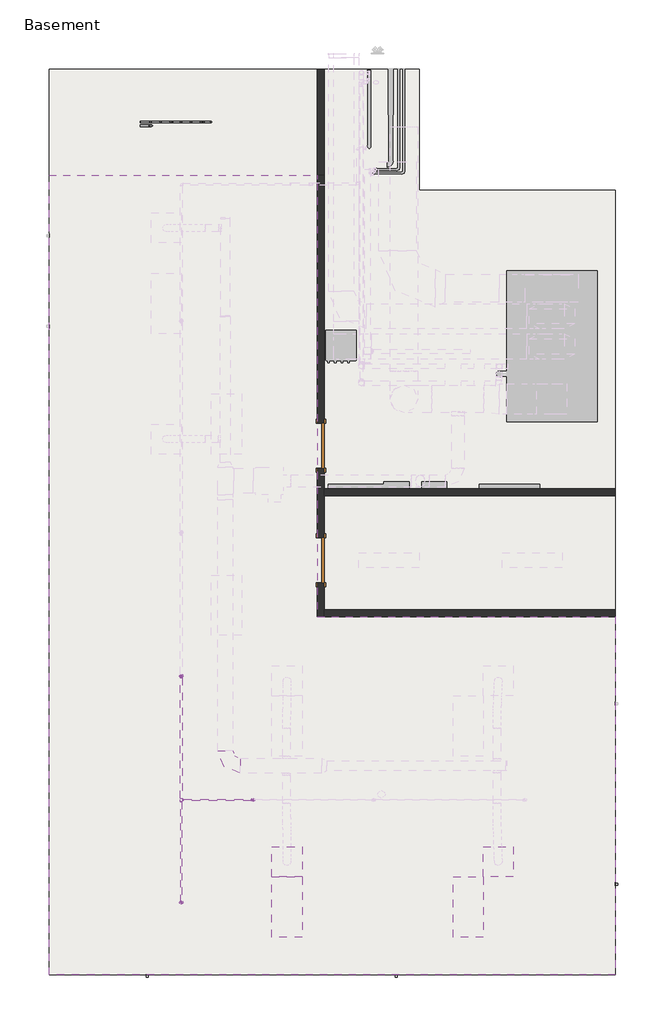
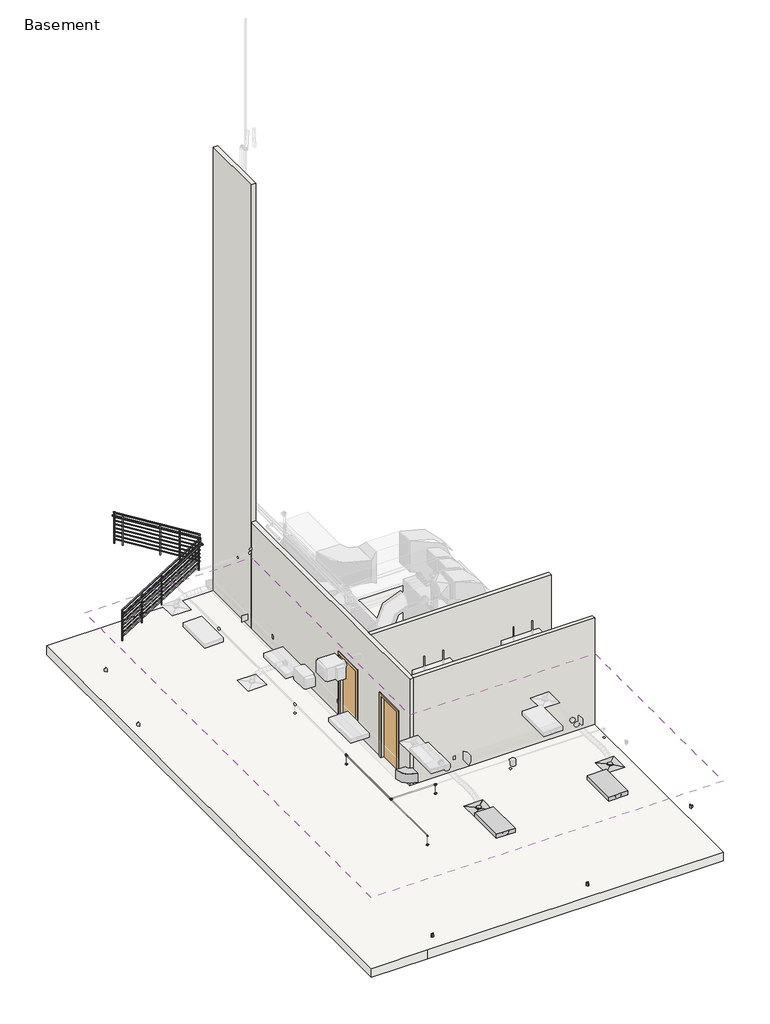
# One storey, part 1 of 6: 9 pipe fittings, 6 pipe segments, 4 walls, 3 fire suppression terminals, 3 proxies, 2 air terminals, 2 doors, 2 light fixtures, 4 other elements.
"""IFC4 building model written with IfcOpenShell, lengths in millimetres."""

from ifc_helpers import new_model, si_unit, point, frame, frame_2d, origin, place, context, project, spatial, polyline, circle_curve, trimmed, segment, composite_curve, outline, extrude, faceted_brep, transform, mapped, element, save
from ifc_brep_helpers import plane_surface, revolved_surface, advanced_brep
from components import rectangular_diffuser_round_connection_24x24_6_neck_a21b6d18, receptacle_gfci_367a9a66, door_c6edcd30, rectangular_duct_radius_elbow_1_w_c7ce8194, fire_suppression_terminal_51680e4f, light_fixture_84ca9390, pipe_elbow_standard_aad62f2d, pipe_tee_standard_feafe2f1, pipe_tee_standard_60c871d1, pipe_transition_eccentric_standard_3095b3c8, pipe_transition_eccentric_standard_8de4c794, pipe_transition_eccentric_standard_b9d171b6, pipe_transition_eccentric_standard_dbf49378, guardrail_pipe_d6e5a110

model = new_model("IFC4")

# Units and contexts
model_context = context("Model", 3, world=origin())
ifc_project = project(units=[si_unit("LENGTHUNIT", "METRE", prefix="MILLI")], contexts=[model_context])

# Site, building, storey
site = spatial("IfcSite", under=ifc_project)
building = spatial("IfcBuilding", under=site)
storey = spatial("IfcBuildingStorey", under=building, Name="Basement", Elevation=-3657.6)

# Air terminals
placement = place(None, origin())
rectangular_diffuser_round_connection_24x24_6_neck_shape = rectangular_diffuser_round_connection_24x24_6_neck_a21b6d18(model_context)
element("IfcAirTerminal", 1, ObjectType="Rectangular Diffuser - Round Connection : 24x24 - 6 Neck", at=placement, inside=storey, context=model_context, shape_type="MappedRepresentation", body=[
    mapped(rectangular_diffuser_round_connection_24x24_6_neck_shape, transform((333.5560388, -4404.890357, -1219.2), x_axis=(1.0, 0.0, 0.0), y_axis=(0.0, 1.0, 0.0), z_axis=(0.0, 0.0, 1.0))),
])
element("IfcAirTerminal", 2, ObjectType="Rectangular Diffuser - Round Connection : 24x24 - 6 Neck", at=placement, inside=storey, context=model_context, shape_type="MappedRepresentation", body=[
    mapped(rectangular_diffuser_round_connection_24x24_6_neck_shape, transform((4600.7560388, -4404.890357, -1219.2), x_axis=(1.0, 0.0, 0.0), y_axis=(0.0, 1.0, 0.0), z_axis=(0.0, 0.0, 1.0))),
])

# Proxies
receptacle_gfci_shape = receptacle_gfci_367a9a66(model_context)
element("IfcBuildingElementProxy", 3, Name="Receptacle : Standard", ObjectType="Receptacle : Standard", at=placement, inside=storey, context=model_context, shape_type="MappedRepresentation", body=[
    mapped(receptacle_gfci_shape, transform((6962.9560388, -4855.740357, -3200.4), x_axis=(0.0, -1.0, 0.0), y_axis=(0.0, 0.0, 1.0), z_axis=(-1.0, 0.0, 0.0))),
])
element("IfcBuildingElementProxy", 4, Name="Receptacle : Standard", ObjectType="Receptacle : Standard", at=placement, inside=storey, context=model_context, shape_type="MappedRepresentation", body=[
    mapped(receptacle_gfci_shape, transform((2543.3560388, -6684.540357, -3200.4), x_axis=(-1.0, 0.0, 0.0), y_axis=(0.0, 0.0, 1.0), z_axis=(0.0, 1.0, 0.0))),
])
element("IfcBuildingElementProxy", 5, Name="Receptacle : Standard", ObjectType="Receptacle : Standard", at=placement, inside=storey, context=model_context, shape_type="MappedRepresentation", body=[
    mapped(receptacle_gfci_shape, transform((-2485.8439612, -6684.540357, -3200.4), x_axis=(-1.0, 0.0, 0.0), y_axis=(0.0, 0.0, 1.0), z_axis=(0.0, 1.0, 0.0))),
])

# Covering
element("IfcCovering", 6, ObjectType="2' x 4' ACT System", at=placement, inside=storey, context=model_context, shape_type="AdvancedBrep", body=[
    advanced_brep(
    [(6962.9560388, -6684.540357, -1162.05), (6962.9560388, 548.109643, -1162.05), (949.5060388, 548.109643, -1162.05), (949.5060388, 9304.759643, -1162.05), (949.5060388, 9457.159643, -1162.05), (-4467.0439612, 9457.159643, -1162.05), (-4467.0439612, -6684.540357, -1162.05), (-2638.2439612, -6684.540357, -1162.05), (-3349.4439612, -3642.890357, -1162.05), (-3349.4439612, 2884.909643, -1162.05), (-2181.0439612, 2884.909643, -1162.05), (-2181.0439612, -3642.890357, -1162.05), (2314.7560388, -3039.640357, -1162.05), (2162.3560388, -3039.640357, -1162.05), (-2339.9042635, 7475.959643, -1162.05), (-1869.7836589, 7475.959643, -1162.05), (-1869.7836589, 6269.459643, -1162.05), (-2339.9042635, 6269.459643, -1162.05), (-1120.7042635, 5037.559643, -1162.05), (-650.5836589, 5037.559643, -1162.05), (-650.5836589, 3831.059643, -1162.05), (-1120.7042635, 3831.059643, -1162.05), (-650.5836589, 173.459643, -1162.05), (-1120.7042635, 173.459643, -1162.05), (-1120.7042635, 1379.959643, -1162.05), (-650.5836589, 1379.959643, -1162.05), (568.6163411, -2264.940357, -1162.05), (98.4957365, -2264.940357, -1162.05), (98.4957365, -1058.440357, -1162.05), (568.6163411, -1058.440357, -1162.05), (4226.2163411, -2264.940357, -1162.05), (3756.0957365, -2264.940357, -1162.05), (3756.0957365, -1058.440357, -1162.05), (4226.2163411, -1058.440357, -1162.05), (4226.2163411, -5922.540357, -1162.05), (3756.0957365, -5922.540357, -1162.05), (3756.0957365, -4716.040357, -1162.05), (4226.2163411, -4716.040357, -1162.05), (568.6163411, -5922.540357, -1162.05), (98.4957365, -5922.540357, -1162.05), (98.4957365, -4716.040357, -1162.05), (568.6163411, -4716.040357, -1162.05), (6962.9560388, 548.109643, -1219.2), (6962.9560388, -6684.540357, -1219.2), (-2638.2439612, -6684.540357, -1219.2), (-4467.0439612, -6684.540357, -1219.2), (-4467.0439612, 9457.159643, -1219.2), (949.5060388, 9457.159643, -1219.2), (949.5060388, 9304.759643, -1219.2), (949.5060388, 548.109643, -1219.2), (-3349.4439612, 2884.909643, -1219.2), (-3349.4439612, -3642.890357, -1219.2), (-2181.0439612, -3642.890357, -1219.2), (-2181.0439612, 2884.909643, -1219.2), (2162.3560388, -3039.640357, -1219.2), (2314.7560388, -3039.640357, -1219.2), (-1806.3939612, 7475.959643, -1219.2), (-2403.2939612, 7475.959643, -1219.2), (-2403.2939612, 6269.459643, -1219.2), (-1806.3939612, 6269.459643, -1219.2), (-587.1939612, 5037.559643, -1219.2), (-1184.0939612, 5037.559643, -1219.2), (-1184.0939612, 3831.059643, -1219.2), (-587.1939612, 3831.059643, -1219.2), (-1184.0939612, 173.459643, -1219.2), (-587.1939612, 173.459643, -1219.2), (-587.1939612, 1379.959643, -1219.2), (-1184.0939612, 1379.959643, -1219.2), (35.1060388, -2264.940357, -1219.2), (632.0060388, -2264.940357, -1219.2), (632.0060388, -1058.440357, -1219.2), (35.1060388, -1058.440357, -1219.2), (3692.7060388, -2264.940357, -1219.2), (4289.6060388, -2264.940357, -1219.2), (4289.6060388, -1058.440357, -1219.2), (3692.7060388, -1058.440357, -1219.2), (3692.7060388, -5922.540357, -1219.2), (4289.6060388, -5922.540357, -1219.2), (4289.6060388, -4716.040357, -1219.2), (3692.7060388, -4716.040357, -1219.2), (35.1060388, -5922.540357, -1219.2), (632.0060388, -5922.540357, -1219.2), (632.0060388, -4716.040357, -1219.2), (35.1060388, -4716.040357, -1219.2)],
    [
        (0, 1),
        (1, 2),
        (2, 3),
        (3, 4),
        (4, 5),
        (5, 6),
        (6, 7),
        (7, 0),
        (8, 9),
        (9, 10),
        (10, 11),
        (11, 8),
        (12, 13, circle_curve(frame((2238.5560388, -3039.640357, -1162.05), z_axis=(0.0, 0.0, -1.0), x_axis=(1.0, 0.0, 0.0)), 76.2)),
        (13, 12, circle_curve(frame((2238.5560388, -3039.640357, -1162.05), z_axis=(0.0, 0.0, -1.0), x_axis=(1.0, 0.0, 0.0)), 76.2)),
        (14, 15),
        (15, 16),
        (16, 17),
        (17, 14),
        (18, 19),
        (19, 20),
        (20, 21),
        (21, 18),
        (22, 23),
        (23, 24),
        (24, 25),
        (25, 22),
        (26, 27),
        (27, 28),
        (28, 29),
        (29, 26),
        (30, 31),
        (31, 32),
        (32, 33),
        (33, 30),
        (34, 35),
        (35, 36),
        (36, 37),
        (37, 34),
        (38, 39),
        (39, 40),
        (40, 41),
        (41, 38),
        (42, 43),
        (43, 44),
        (44, 45),
        (45, 46),
        (46, 47),
        (47, 48),
        (48, 49),
        (49, 42),
        (50, 51),
        (51, 52),
        (52, 53),
        (53, 50),
        (54, 55, circle_curve(frame((2238.5560388, -3039.640357, -1219.2), z_axis=(0.0, 0.0, 1.0), x_axis=(1.0, 0.0, 0.0)), 76.2)),
        (55, 54, circle_curve(frame((2238.5560388, -3039.640357, -1219.2), z_axis=(0.0, 0.0, 1.0), x_axis=(1.0, 0.0, 0.0)), 76.2)),
        (56, 57),
        (57, 58),
        (58, 59),
        (59, 56),
        (60, 61),
        (61, 62),
        (62, 63),
        (63, 60),
        (64, 65),
        (65, 66),
        (66, 67),
        (67, 64),
        (68, 69),
        (69, 70),
        (70, 71),
        (71, 68),
        (72, 73),
        (73, 74),
        (74, 75),
        (75, 72),
        (76, 77),
        (77, 78),
        (78, 79),
        (79, 76),
        (80, 81),
        (81, 82),
        (82, 83),
        (83, 80),
        (0, 43),
        (42, 1),
        (49, 2),
        (48, 3),
        (47, 4),
        (46, 5),
        (45, 6),
        (44, 7),
        (8, 51),
        (50, 9),
        (53, 10),
        (52, 11),
        (54, 13),
        (12, 55),
        (56, 15, circle_curve(frame((-2104.8439612, 7475.959643, -1486.5047619), z_axis=(0.0, -1.0, 0.0), x_axis=(1.0, 0.0, 0.0)), 400.6547619)),
        (14, 57, circle_curve(frame((-2104.8439612, 7475.959643, -1486.5047619), z_axis=(0.0, -1.0, 0.0), x_axis=(1.0, 0.0, 0.0)), 400.6547619)),
        (58, 17, circle_curve(frame((-2104.8439612, 6269.459643, -1486.5047619), z_axis=(0.0, 1.0, 0.0), x_axis=(1.0, 0.0, 0.0)), 400.6547619)),
        (16, 59, circle_curve(frame((-2104.8439612, 6269.459643, -1486.5047619), z_axis=(0.0, 1.0, 0.0), x_axis=(1.0, 0.0, 0.0)), 400.6547619)),
        (60, 19, circle_curve(frame((-885.6439612, 5037.559643, -1486.5047619), z_axis=(0.0, -1.0, 0.0), x_axis=(1.0, 0.0, 0.0)), 400.6547619)),
        (18, 61, circle_curve(frame((-885.6439612, 5037.559643, -1486.5047619), z_axis=(0.0, -1.0, 0.0), x_axis=(1.0, 0.0, 0.0)), 400.6547619)),
        (62, 21, circle_curve(frame((-885.6439612, 3831.059643, -1486.5047619), z_axis=(0.0, 1.0, 0.0), x_axis=(1.0, 0.0, 0.0)), 400.6547619)),
        (20, 63, circle_curve(frame((-885.6439612, 3831.059643, -1486.5047619), z_axis=(0.0, 1.0, 0.0), x_axis=(1.0, 0.0, 0.0)), 400.6547619)),
        (64, 23, circle_curve(frame((-885.6439612, 173.459643, -1486.5047619), z_axis=(0.0, 1.0, 0.0), x_axis=(-1.0, 0.0, 0.0)), 400.6547619)),
        (22, 65, circle_curve(frame((-885.6439612, 173.459643, -1486.5047619), z_axis=(0.0, 1.0, 0.0), x_axis=(-1.0, 0.0, 0.0)), 400.6547619)),
        (66, 25, circle_curve(frame((-885.6439612, 1379.959643, -1486.5047619), z_axis=(0.0, -1.0, 0.0), x_axis=(-1.0, 0.0, 0.0)), 400.6547619)),
        (24, 67, circle_curve(frame((-885.6439612, 1379.959643, -1486.5047619), z_axis=(0.0, -1.0, 0.0), x_axis=(-1.0, 0.0, 0.0)), 400.6547619)),
        (68, 27, circle_curve(frame((333.5560388, -2264.940357, -1486.5047619), z_axis=(0.0, 1.0, 0.0), x_axis=(-1.0, 0.0, 0.0)), 400.6547619)),
        (26, 69, circle_curve(frame((333.5560388, -2264.940357, -1486.5047619), z_axis=(0.0, 1.0, 0.0), x_axis=(-1.0, 0.0, 0.0)), 400.6547619)),
        (70, 29, circle_curve(frame((333.5560388, -1058.440357, -1486.5047619), z_axis=(0.0, -1.0, 0.0), x_axis=(-1.0, 0.0, 0.0)), 400.6547619)),
        (28, 71, circle_curve(frame((333.5560388, -1058.440357, -1486.5047619), z_axis=(0.0, -1.0, 0.0), x_axis=(-1.0, 0.0, 0.0)), 400.6547619)),
        (72, 31, circle_curve(frame((3991.1560388, -2264.940357, -1486.5047619), z_axis=(0.0, 1.0, 0.0), x_axis=(-1.0, 0.0, 0.0)), 400.6547619)),
        (30, 73, circle_curve(frame((3991.1560388, -2264.940357, -1486.5047619), z_axis=(0.0, 1.0, 0.0), x_axis=(-1.0, 0.0, 0.0)), 400.6547619)),
        (74, 33, circle_curve(frame((3991.1560388, -1058.440357, -1486.5047619), z_axis=(0.0, -1.0, 0.0), x_axis=(-1.0, 0.0, 0.0)), 400.6547619)),
        (32, 75, circle_curve(frame((3991.1560388, -1058.440357, -1486.5047619), z_axis=(0.0, -1.0, 0.0), x_axis=(-1.0, 0.0, 0.0)), 400.6547619)),
        (76, 35, circle_curve(frame((3991.1560388, -5922.540357, -1486.5047619), z_axis=(0.0, 1.0, 0.0), x_axis=(-1.0, 0.0, 0.0)), 400.6547619)),
        (34, 77, circle_curve(frame((3991.1560388, -5922.540357, -1486.5047619), z_axis=(0.0, 1.0, 0.0), x_axis=(-1.0, 0.0, 0.0)), 400.6547619)),
        (78, 37, circle_curve(frame((3991.1560388, -4716.040357, -1486.5047619), z_axis=(0.0, -1.0, 0.0), x_axis=(-1.0, 0.0, 0.0)), 400.6547619)),
        (36, 79, circle_curve(frame((3991.1560388, -4716.040357, -1486.5047619), z_axis=(0.0, -1.0, 0.0), x_axis=(-1.0, 0.0, 0.0)), 400.6547619)),
        (80, 39, circle_curve(frame((333.5560388, -5922.540357, -1486.5047619), z_axis=(0.0, 1.0, 0.0), x_axis=(-1.0, 0.0, 0.0)), 400.6547619)),
        (38, 81, circle_curve(frame((333.5560388, -5922.540357, -1486.5047619), z_axis=(0.0, 1.0, 0.0), x_axis=(-1.0, 0.0, 0.0)), 400.6547619)),
        (82, 41, circle_curve(frame((333.5560388, -4716.040357, -1486.5047619), z_axis=(0.0, -1.0, 0.0), x_axis=(-1.0, 0.0, 0.0)), 400.6547619)),
        (40, 83, circle_curve(frame((333.5560388, -4716.040357, -1486.5047619), z_axis=(0.0, -1.0, 0.0), x_axis=(-1.0, 0.0, 0.0)), 400.6547619)),
    ],
    [
        plane_surface(frame((6962.9560388, 548.109643, -1162.05), z_axis=(0.0, 0.0, 1.0), x_axis=(0.0, 1.0, 0.0))),
        plane_surface(frame((6962.9560388, 548.109643, -1219.2), z_axis=(0.0, 0.0, -1.0), x_axis=(0.0, -1.0, 0.0))),
        plane_surface(frame((6962.9560388, -6684.540357, -1162.05), z_axis=(1.0, 0.0, 0.0), x_axis=(0.0, 0.0, -1.0))),
        plane_surface(frame((6962.9560388, 548.109643, -1162.05), z_axis=(0.0, 1.0, 0.0), x_axis=(0.0, 0.0, -1.0))),
        plane_surface(frame((949.5060388, 548.109643, -1162.05), z_axis=(1.0, 0.0, 0.0), x_axis=(0.0, 0.0, -1.0))),
        plane_surface(frame((949.5060388, 9304.759643, -1162.05), z_axis=(1.0, 0.0, 0.0), x_axis=(0.0, 0.0, -1.0))),
        plane_surface(frame((949.5060388, 9457.159643, -1162.05), z_axis=(0.0, 1.0, 0.0), x_axis=(0.0, 0.0, -1.0))),
        plane_surface(frame((-4467.0439612, 9457.159643, -1162.05), z_axis=(-1.0, 0.0, 0.0), x_axis=(0.0, 0.0, -1.0))),
        plane_surface(frame((-4467.0439612, -6684.540357, -1162.05), z_axis=(0.0, -1.0, 0.0), x_axis=(0.0, 0.0, -1.0))),
        plane_surface(frame((-2638.2439612, -6684.540357, -1162.05), z_axis=(0.0, -1.0, 0.0), x_axis=(0.0, 0.0, -1.0))),
        plane_surface(frame((-3349.4439612, -3642.890357, -1162.05), z_axis=(1.0, 0.0, 0.0), x_axis=(0.0, 0.0, -1.0))),
        plane_surface(frame((-3349.4439612, 2884.909643, -1162.05), z_axis=(0.0, -1.0, 0.0), x_axis=(0.0, 0.0, -1.0))),
        plane_surface(frame((-2181.0439612, 2884.909643, -1162.05), z_axis=(-1.0, 0.0, 0.0), x_axis=(0.0, 0.0, -1.0))),
        plane_surface(frame((-2181.0439612, -3642.890357, -1162.05), z_axis=(0.0, 1.0, 0.0), x_axis=(0.0, 0.0, -1.0))),
        revolved_surface(polyline([(2314.7560387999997, -3039.640357, -1162.05), (2314.7560387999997, -3039.640357, -1219.2)]), (2238.5560388, -3039.640357, -1219.2), (0.0, 0.0, 1.0)),
        plane_surface(frame((-2403.2939612, 7475.959643, -1219.2), z_axis=(0.0, -1.0, 0.0), x_axis=(-1.0, 0.0, 0.0))),
        plane_surface(frame((-2403.2939612, 6269.459643, -1219.2), z_axis=(0.0, 1.0, 0.0), x_axis=(1.0, 0.0, 0.0))),
        revolved_surface(polyline([(-1704.1891993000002, 7475.959643, -1486.5047619), (-1704.1891993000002, 6269.459643, -1486.5047619)]), (-2104.8439612, 6269.459643, -1486.5047619), (0.0, 1.0, 0.0)),
        plane_surface(frame((-1184.0939612, 5037.559643, -1219.2), z_axis=(0.0, -1.0, 0.0), x_axis=(-1.0, 0.0, 0.0))),
        plane_surface(frame((-1184.0939612, 3831.059643, -1219.2), z_axis=(0.0, 1.0, 0.0), x_axis=(1.0, 0.0, 0.0))),
        revolved_surface(polyline([(-484.98919930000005, 5037.559643, -1486.5047619), (-484.98919930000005, 3831.059643, -1486.5047619)]), (-885.6439612, 3831.059643, -1486.5047619), (0.0, 1.0, 0.0)),
        plane_surface(frame((-587.1939612, 173.459643, -1219.2), z_axis=(0.0, 1.0, 0.0), x_axis=(1.0, 0.0, 0.0))),
        plane_surface(frame((-587.1939612, 1379.959643, -1219.2), z_axis=(0.0, -1.0, 0.0), x_axis=(-1.0, 0.0, 0.0))),
        revolved_surface(polyline([(-1286.2987231, 173.45964299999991, -1486.5047619), (-1286.2987231, 1379.959643, -1486.5047619)]), (-885.6439612, 1379.959643, -1486.5047619), (0.0, -1.0, 0.0)),
        plane_surface(frame((632.0060388, -2264.940357, -1219.2), z_axis=(0.0, 1.0, 0.0), x_axis=(1.0, 0.0, 0.0))),
        plane_surface(frame((632.0060388, -1058.440357, -1219.2), z_axis=(0.0, -1.0, 0.0), x_axis=(-1.0, 0.0, 0.0))),
        revolved_surface(polyline([(-67.09872309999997, -2264.940357, -1486.5047619), (-67.09872309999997, -1058.440357, -1486.5047619)]), (333.5560388, -1058.440357, -1486.5047619), (0.0, -1.0, 0.0)),
        plane_surface(frame((4289.6060388, -2264.940357, -1219.2), z_axis=(0.0, 1.0, 0.0), x_axis=(1.0, 0.0, 0.0))),
        plane_surface(frame((4289.6060388, -1058.440357, -1219.2), z_axis=(0.0, -1.0, 0.0), x_axis=(-1.0, 0.0, 0.0))),
        revolved_surface(polyline([(3590.5012769, -2264.940357, -1486.5047619), (3590.5012769, -1058.440357, -1486.5047619)]), (3991.1560388, -1058.440357, -1486.5047619), (0.0, -1.0, 0.0)),
        plane_surface(frame((4289.6060388, -5922.540357, -1219.2), z_axis=(0.0, 1.0, 0.0), x_axis=(1.0, 0.0, 0.0))),
        plane_surface(frame((4289.6060388, -4716.040357, -1219.2), z_axis=(0.0, -1.0, 0.0), x_axis=(-1.0, 0.0, 0.0))),
        revolved_surface(polyline([(3590.5012769, -5922.540357, -1486.5047619), (3590.5012769, -4716.040357, -1486.5047619)]), (3991.1560388, -4716.040357, -1486.5047619), (0.0, -1.0, 0.0)),
        plane_surface(frame((632.0060388, -5922.540357, -1219.2), z_axis=(0.0, 1.0, 0.0), x_axis=(1.0, 0.0, 0.0))),
        plane_surface(frame((632.0060388, -4716.040357, -1219.2), z_axis=(0.0, -1.0, 0.0), x_axis=(-1.0, 0.0, 0.0))),
        revolved_surface(polyline([(-67.09872309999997, -5922.540357, -1486.5047619), (-67.09872309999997, -4716.040357, -1486.5047619)]), (333.5560388, -4716.040357, -1486.5047619), (0.0, -1.0, 0.0)),
    ],
    [
        (0, [[1, 2, 3, 4, 5, 6, 7, 8], [9, 10, 11, 12], [13, 14], [15, 16, 17, 18], [19, 20, 21, 22], [23, 24, 25, 26], [27, 28, 29, 30], [31, 32, 33, 34], [35, 36, 37, 38], [39, 40, 41, 42]]),
        (1, [[43, 44, 45, 46, 47, 48, 49, 50], [51, 52, 53, 54], [55, 56], [57, 58, 59, 60], [61, 62, 63, 64], [65, 66, 67, 68], [69, 70, 71, 72], [73, 74, 75, 76], [77, 78, 79, 80], [81, 82, 83, 84]]),
        (2, [[-1, 85, -43, 86]]),
        (3, [[-2, -86, -50, 87]]),
        (4, [[-3, -87, -49, 88]]),
        (5, [[-4, -88, -48, 89]]),
        (6, [[-5, -89, -47, 90]]),
        (7, [[-6, -90, -46, 91]]),
        (8, [[-7, -91, -45, 92]]),
        (9, [[-8, -92, -44, -85]]),
        (10, [[-9, 93, -51, 94]]),
        (11, [[-10, -94, -54, 95]]),
        (12, [[-11, -95, -53, 96]]),
        (13, [[-12, -96, -52, -93]]),
        (14, [[-55, 97, -13, 98]]),
        (14, [[-56, -98, -14, -97]]),
        (15, [[99, -15, 100, -57]]),
        (16, [[101, -17, 102, -59]]),
        (17, [[-99, -60, -102, -16]]),
        (17, [[-100, -18, -101, -58]]),
        (18, [[103, -19, 104, -61]]),
        (19, [[105, -21, 106, -63]]),
        (20, [[-103, -64, -106, -20]]),
        (20, [[-104, -22, -105, -62]]),
        (21, [[107, -23, 108, -65]]),
        (22, [[109, -25, 110, -67]]),
        (23, [[-107, -68, -110, -24]]),
        (23, [[-108, -26, -109, -66]]),
        (24, [[111, -27, 112, -69]]),
        (25, [[113, -29, 114, -71]]),
        (26, [[-111, -72, -114, -28]]),
        (26, [[-112, -30, -113, -70]]),
        (27, [[115, -31, 116, -73]]),
        (28, [[117, -33, 118, -75]]),
        (29, [[-115, -76, -118, -32]]),
        (29, [[-116, -34, -117, -74]]),
        (30, [[119, -35, 120, -77]]),
        (31, [[121, -37, 122, -79]]),
        (32, [[-119, -80, -122, -36]]),
        (32, [[-120, -38, -121, -78]]),
        (33, [[123, -39, 124, -81]]),
        (34, [[125, -41, 126, -83]]),
        (35, [[-123, -84, -126, -40]]),
        (35, [[-124, -42, -125, -82]]),
    ],
),
])

# Doors
door_shape = door_c6edcd30(model_context)
element("IfcDoor", 7, ObjectType="Single-Flush : 36\" x 84\"", at=placement, inside=storey, context=model_context, shape_type="MappedRepresentation", body=[
    mapped(door_shape, transform((1019.3560388, 3996.159643, -3657.6), x_axis=(0.0, -1.0, 0.0), y_axis=(1.0, 0.0, 0.0), z_axis=(0.0, 0.0, 1.0))),
])
element("IfcDoor", 8, ObjectType="Single-Flush : 36\" x 84\"", at=placement, inside=storey, context=model_context, shape_type="MappedRepresentation", body=[
    mapped(door_shape, transform((1019.3560388, 1684.759643, -3657.6), x_axis=(0.0, -1.0, 0.0), y_axis=(1.0, 0.0, 0.0), z_axis=(0.0, 0.0, 1.0))),
])

# Duct fitting
rectangular_duct_radius_elbow_1_w_shape = rectangular_duct_radius_elbow_1_w_c7ce8194(model_context)
element("IfcDuctFitting", 9, ObjectType="Rectangular Duct Radius Elbow : 1 W", at=placement, inside=storey, context=model_context, shape_type="MappedRepresentation", body=[
    mapped(rectangular_duct_radius_elbow_1_w_shape, transform((-915.1844462, -2464.4502377, -914.4), x_axis=(-1.0, 0.0, 0.0), y_axis=(0.0, 1.0, 0.0), z_axis=(0.0, 0.0, -1.0))),
])

# Fire suppression terminals
fire_suppression_terminal_shape = fire_suppression_terminal_51680e4f(model_context)
element("IfcFireSuppressionTerminal", 10, ObjectType="Sprinkler - Pendent - Semi-Recessed - Hosted : 1/2\" Pendent", at=placement, inside=storey, context=model_context, shape_type="MappedRepresentation", body=[
    mapped(fire_suppression_terminal_shape, transform((-352.2439612, -3153.940357, -1219.2), x_axis=(1.0, 0.0, 0.0), y_axis=(0.0, -1.0, 0.0), z_axis=(0.0, 0.0, -1.0))),
])
element("IfcFireSuppressionTerminal", 11, ObjectType="Sprinkler - Pendent - Semi-Recessed - Hosted : 1/2\" Pendent", at=placement, inside=storey, context=model_context, shape_type="MappedRepresentation", body=[
    mapped(fire_suppression_terminal_shape, transform((-1800.0439612, -5226.7977664, -1219.2), x_axis=(1.0, 0.0, 0.0), y_axis=(0.0, -1.0, 0.0), z_axis=(0.0, 0.0, -1.0))),
])
element("IfcFireSuppressionTerminal", 12, ObjectType="Sprinkler - Pendent - Semi-Recessed - Hosted : 1/2\" Pendent", at=placement, inside=storey, context=model_context, shape_type="MappedRepresentation", body=[
    mapped(fire_suppression_terminal_shape, transform((-1800.0439612, -654.7977664, -1219.2), x_axis=(1.0, 0.0, 0.0), y_axis=(0.0, -1.0, 0.0), z_axis=(0.0, 0.0, -1.0))),
])

# Light fixtures
light_fixture_shape = light_fixture_84ca9390(model_context)
element("IfcLightFixture", 13, ObjectType="Recessed Direct-Indirect Light - Symmetrical : 48\"(3 Lamp) - 277V", at=placement, inside=storey, context=model_context, shape_type="MappedRepresentation", body=[
    mapped(light_fixture_shape, transform((3991.1560388, -5319.290357, -1219.2), x_axis=(-1.0, 0.0, 0.0), y_axis=(0.0, 1.0, 0.0), z_axis=(0.0, 0.0, -1.0))),
])
element("IfcLightFixture", 14, ObjectType="Recessed Direct-Indirect Light - Symmetrical : 48\"(3 Lamp) - 277V", at=placement, inside=storey, context=model_context, shape_type="MappedRepresentation", body=[
    mapped(light_fixture_shape, transform((333.5560388, -5319.290357, -1219.2), x_axis=(-1.0, 0.0, 0.0), y_axis=(0.0, 1.0, 0.0), z_axis=(0.0, 0.0, -1.0))),
])

# Pipe fittings
pipe_elbow_standard_shape = pipe_elbow_standard_aad62f2d(model_context)
element("IfcPipeFitting", 15, ObjectType="Pipe Elbow1 : Standard 2", at=placement, inside=storey, context=model_context, shape_type="MappedRepresentation", body=[
    mapped(pipe_elbow_standard_shape, transform((-1800.0439612, -5226.7977664, -914.4), x_axis=(0.0, 0.0, 1.0), y_axis=(0.0, 1.0, 0.0), z_axis=(-1.0, 0.0, 0.0))),
])
pipe_tee_standard_shape = pipe_tee_standard_feafe2f1(model_context)
element("IfcPipeFitting", 16, ObjectType="Pipe Tee : Standard", at=placement, inside=storey, context=model_context, shape_type="MappedRepresentation", body=[
    mapped(pipe_tee_standard_shape, transform((-352.2439612, -3153.940357, -914.4), x_axis=(1.0, 0.0, 0.0), y_axis=(0.0, 0.0, 1.0), z_axis=(0.0, -1.0, 0.0))),
])
pipe_tee_standard_2_shape = pipe_tee_standard_60c871d1(model_context)
element("IfcPipeFitting", 17, ObjectType="Pipe Tee : Standard", at=placement, inside=storey, context=model_context, shape_type="MappedRepresentation", body=[
    mapped(pipe_tee_standard_2_shape, transform((-1800.0439612, -3153.940357, -914.4), x_axis=(0.0, -1.0, 0.0), y_axis=(-1.0, 0.0, 0.0), z_axis=(0.0, 0.0, -1.0))),
])
element("IfcPipeFitting", 18, ObjectType="Pipe Tee : Standard", at=placement, inside=storey, context=model_context, shape_type="MappedRepresentation", body=[
    mapped(pipe_tee_standard_2_shape, transform((-1800.0439612, -654.7977664, -914.4), x_axis=(0.0, 1.0, 0.0), y_axis=(0.0, 0.0, 1.0), z_axis=(1.0, 0.0, 0.0))),
])
pipe_transition_eccentric_standard_shape = pipe_transition_eccentric_standard_3095b3c8(model_context)
element("IfcPipeFitting", 19, ObjectType="Pipe Transition Eccentric : Standard", at=placement, inside=storey, context=model_context, shape_type="MappedRepresentation", body=[
    mapped(pipe_transition_eccentric_standard_shape, transform((-352.2439612, -3153.940357, -944.5625), x_axis=(0.0, 0.0, -1.0), y_axis=(1.0, 0.0, 0.0), z_axis=(0.0, -1.0, 0.0))),
])
pipe_transition_eccentric_standard_2_shape = pipe_transition_eccentric_standard_8de4c794(model_context)
element("IfcPipeFitting", 20, ObjectType="Pipe Transition Eccentric : Standard", at=placement, inside=storey, context=model_context, shape_type="MappedRepresentation", body=[
    mapped(pipe_transition_eccentric_standard_2_shape, transform((-1800.0439612, -654.7977664, -947.7375), x_axis=(0.0, 0.0, -1.0), y_axis=(0.0, 1.0, 0.0), z_axis=(1.0, 0.0, 0.0))),
])
element("IfcPipeFitting", 21, ObjectType="Pipe Transition Eccentric : Standard", at=placement, inside=storey, context=model_context, shape_type="MappedRepresentation", body=[
    mapped(pipe_transition_eccentric_standard_2_shape, transform((-1800.0439612, -3187.277857, -914.4), x_axis=(0.0, -1.0, 0.0), y_axis=(1.0, 0.0, 0.0), z_axis=(0.0, 0.0, 1.0))),
])
pipe_transition_eccentric_standard_3_shape = pipe_transition_eccentric_standard_b9d171b6(model_context)
element("IfcPipeFitting", 22, ObjectType="Pipe Transition Eccentric : Standard", at=placement, inside=storey, context=model_context, shape_type="MappedRepresentation", body=[
    mapped(pipe_transition_eccentric_standard_3_shape, transform((-1766.7064612, -3153.940357, -914.4), x_axis=(1.0, 0.0, 0.0), y_axis=(0.0, 1.0, 0.0), z_axis=(0.0, 0.0, 1.0))),
])
pipe_transition_eccentric_standard_4_shape = pipe_transition_eccentric_standard_dbf49378(model_context)
element("IfcPipeFitting", 23, ObjectType="Pipe Transition Eccentric : Standard", at=placement, inside=storey, context=model_context, shape_type="MappedRepresentation", body=[
    mapped(pipe_transition_eccentric_standard_4_shape, transform((-322.0814612, -3153.940357, -914.4), x_axis=(1.0, 0.0, 0.0), y_axis=(0.0, 1.0, 0.0), z_axis=(0.0, 0.0, 1.0))),
])

# Pipe segments
element("IfcPipeSegment", 24, ObjectType="Standard", at=placement, inside=storey, context=model_context, shape_type="SweptSolid", body=[
    extrude(outline(composite_curve([segment(trimmed(circle_curve(frame_2d((-914.4, -1800.0439612)), 17.4625), [point((-914.4, -1817.5064612))], [point((-931.8625, -1800.0439612))], False, "CARTESIAN"), True, "CONTINUOUS"), segment(trimmed(circle_curve(frame_2d((-914.4, -1800.0439612)), 17.4625), [point((-931.8625, -1800.0439612))], [point((-914.4, -1782.5814612))], False, "CARTESIAN"), True, "CONTINUOUS"), segment(trimmed(circle_curve(frame_2d((-914.4, -1800.0439612)), 17.4625), [point((-914.4, -1782.5814612))], [point((-896.9375, -1800.0439612))], False, "CARTESIAN"), True, "CONTINUOUS"), segment(trimmed(circle_curve(frame_2d((-914.4, -1800.0439612)), 17.4625), [point((-896.9375, -1800.0439612))], [point((-914.4, -1817.5064612))], False, "CARTESIAN"), True, "CONTINUOUS")], self_intersect=False)), frame((0.0, -3120.602857, 0.0), z_axis=(0.0, 1.0, 0.0), x_axis=(0.0, 0.0, 1.0)), (0.0, 0.0, 1.0), 2432.4675906),
])
element("IfcPipeSegment", 25, ObjectType="Standard", at=placement, inside=storey, context=model_context, shape_type="SweptSolid", body=[
    extrude(outline(composite_curve([segment(trimmed(circle_curve(frame_2d((-3153.940357, -914.4)), 14.2875), [point((-3139.652857, -914.4))], [point((-3153.940357, -928.6875))], False, "CARTESIAN"), True, "CONTINUOUS"), segment(trimmed(circle_curve(frame_2d((-3153.940357, -914.4)), 14.2875), [point((-3153.940357, -928.6875))], [point((-3168.227857, -914.4))], False, "CARTESIAN"), True, "CONTINUOUS"), segment(trimmed(circle_curve(frame_2d((-3153.940357, -914.4)), 14.2875), [point((-3168.227857, -914.4))], [point((-3153.940357, -900.1125))], False, "CARTESIAN"), True, "CONTINUOUS"), segment(trimmed(circle_curve(frame_2d((-3153.940357, -914.4)), 14.2875), [point((-3153.940357, -900.1125))], [point((-3139.652857, -914.4))], False, "CARTESIAN"), True, "CONTINUOUS")], self_intersect=False)), frame((-1757.9752112, 0.0, 0.0), z_axis=(1.0, 0.0, 0.0), x_axis=(0.0, 1.0, 0.0)), (0.0, 0.0, 1.0), 1375.56875),
])
element("IfcPipeSegment", 26, ObjectType="Standard", at=placement, inside=storey, context=model_context, shape_type="SweptSolid", body=[
    extrude(outline(composite_curve([segment(trimmed(circle_curve(frame_2d((-914.4, -1800.0439612)), 7.9375), [point((-914.4, -1807.9814612))], [point((-922.3375, -1800.0439612))], False, "CARTESIAN"), True, "CONTINUOUS"), segment(trimmed(circle_curve(frame_2d((-914.4, -1800.0439612)), 7.9375), [point((-922.3375, -1800.0439612))], [point((-914.4, -1792.1064612))], False, "CARTESIAN"), True, "CONTINUOUS"), segment(trimmed(circle_curve(frame_2d((-914.4, -1800.0439612)), 7.9375), [point((-914.4, -1792.1064612))], [point((-906.4625, -1800.0439612))], False, "CARTESIAN"), True, "CONTINUOUS"), segment(trimmed(circle_curve(frame_2d((-914.4, -1800.0439612)), 7.9375), [point((-906.4625, -1800.0439612))], [point((-914.4, -1807.9814612))], False, "CARTESIAN"), True, "CONTINUOUS")], self_intersect=False)), frame((0.0, -5209.3352664, 0.0), z_axis=(0.0, 1.0, 0.0), x_axis=(0.0, 0.0, 1.0)), (0.0, 0.0, 1.0), 2013.3261594),
])
element("IfcPipeSegment", 27, ObjectType="Standard", at=placement, inside=storey, context=model_context, shape_type="SweptSolid", body=[
    extrude(outline(composite_curve([segment(trimmed(circle_curve(frame_2d((-352.2439612, -3153.940357)), 7.9375), [point((-352.2439612, -3161.877857))], [point((-360.1814612, -3153.940357))], False, "CARTESIAN"), True, "CONTINUOUS"), segment(trimmed(circle_curve(frame_2d((-352.2439612, -3153.940357)), 7.9375), [point((-360.1814612, -3153.940357))], [point((-352.2439612, -3146.002857))], False, "CARTESIAN"), True, "CONTINUOUS"), segment(trimmed(circle_curve(frame_2d((-352.2439612, -3153.940357)), 7.9375), [point((-352.2439612, -3146.002857))], [point((-344.3064612, -3153.940357))], False, "CARTESIAN"), True, "CONTINUOUS"), segment(trimmed(circle_curve(frame_2d((-352.2439612, -3153.940357)), 7.9375), [point((-344.3064612, -3153.940357))], [point((-352.2439612, -3161.877857))], False, "CARTESIAN"), True, "CONTINUOUS")], self_intersect=False)), frame((0.0, 0.0, -1195.3875), z_axis=(0.0, 0.0, 1.0), x_axis=(1.0, 0.0, 0.0)), (0.0, 0.0, 1.0), 243.68125),
])
element("IfcPipeSegment", 28, ObjectType="Standard", at=placement, inside=storey, context=model_context, shape_type="SweptSolid", body=[
    extrude(outline(composite_curve([segment(trimmed(circle_curve(frame_2d((-1800.0439612, -5226.7977664)), 7.9375), [point((-1800.0439612, -5234.7352664))], [point((-1807.9814612, -5226.7977664))], False, "CARTESIAN"), True, "CONTINUOUS"), segment(trimmed(circle_curve(frame_2d((-1800.0439612, -5226.7977664)), 7.9375), [point((-1807.9814612, -5226.7977664))], [point((-1800.0439612, -5218.8602664))], False, "CARTESIAN"), True, "CONTINUOUS"), segment(trimmed(circle_curve(frame_2d((-1800.0439612, -5226.7977664)), 7.9375), [point((-1800.0439612, -5218.8602664))], [point((-1792.1064612, -5226.7977664))], False, "CARTESIAN"), True, "CONTINUOUS"), segment(trimmed(circle_curve(frame_2d((-1800.0439612, -5226.7977664)), 7.9375), [point((-1792.1064612, -5226.7977664))], [point((-1800.0439612, -5234.7352664))], False, "CARTESIAN"), True, "CONTINUOUS")], self_intersect=False)), frame((0.0, 0.0, -1195.3875), z_axis=(0.0, 0.0, 1.0), x_axis=(1.0, 0.0, 0.0)), (0.0, 0.0, 1.0), 263.525),
])
element("IfcPipeSegment", 29, ObjectType="Standard", at=placement, inside=storey, context=model_context, shape_type="SweptSolid", body=[
    extrude(outline(composite_curve([segment(trimmed(circle_curve(frame_2d((-1800.0439612, -654.7977664)), 7.9375), [point((-1800.0439612, -662.7352664))], [point((-1807.9814612, -654.7977664))], False, "CARTESIAN"), True, "CONTINUOUS"), segment(trimmed(circle_curve(frame_2d((-1800.0439612, -654.7977664)), 7.9375), [point((-1807.9814612, -654.7977664))], [point((-1800.0439612, -646.8602664))], False, "CARTESIAN"), True, "CONTINUOUS"), segment(trimmed(circle_curve(frame_2d((-1800.0439612, -654.7977664)), 7.9375), [point((-1800.0439612, -646.8602664))], [point((-1792.1064612, -654.7977664))], False, "CARTESIAN"), True, "CONTINUOUS"), segment(trimmed(circle_curve(frame_2d((-1800.0439612, -654.7977664)), 7.9375), [point((-1792.1064612, -654.7977664))], [point((-1800.0439612, -662.7352664))], False, "CARTESIAN"), True, "CONTINUOUS")], self_intersect=False)), frame((0.0, 0.0, -1195.3875), z_axis=(0.0, 0.0, 1.0), x_axis=(1.0, 0.0, 0.0)), (0.0, 0.0, 1.0), 238.91875),
])

# Railing
guardrail_pipe_shape = guardrail_pipe_d6e5a110(model_context)
element("IfcRailing", 30, ObjectType="Guardrail - Pipe", at=placement, inside=storey, context=model_context, shape_type="MappedRepresentation", body=[
    mapped(guardrail_pipe_shape, transform((0.0, 0.0, 0.0), x_axis=(1.0, 0.0, 0.0), y_axis=(0.0, 1.0, 0.0), z_axis=(0.0, 0.0, 1.0))),
])

# Slab
element("IfcSlab", 31, ObjectType="Generic - 12\"", at=placement, inside=storey, context=model_context, shape_type="SweptSolid", body=[
    extrude(outline(polyline([(-4467.0439612, 11603.459643), (3000.5560388, 11603.459643), (3000.5560388, 9152.359643), (6962.9560388, 9152.359643), (6962.9560388, -6684.540357), (-2638.2439612, -6684.540357), (-4467.0439612, -6684.540357), (-4467.0439612, 11603.459643)])), frame((0.0, 0.0, -3962.4), z_axis=(0.0, 0.0, 1.0), x_axis=(1.0, 0.0, 0.0)), (0.0, 0.0, 1.0), 304.8),
])

# Walls
element("IfcWall", 32, ObjectType="Interior - 5 1/2\" Partition (1-hr)", at=placement, inside=storey, context=model_context, shape_type="SweptSolid", body=[
    extrude(outline(polyline([(1089.2060388, 11603.459643), (1089.2060388, 9457.159643), (949.5060388, 9457.159643), (949.5060388, 11603.459643), (1089.2060388, 11603.459643)])), frame((0.0, 0.0, -3657.6), z_axis=(0.0, 0.0, 1.0), x_axis=(1.0, 0.0, 0.0)), (0.0, 0.0, 1.0), 15240.0),
])
element("IfcWall", 33, ObjectType="Interior - 5 1/2\" Partition (1-hr)", at=placement, inside=storey, context=model_context, shape_type="Brep", body=[
    faceted_brep([(949.5060388, 1227.559643, -1524.0), (949.5060388, 1227.559643, -3657.6), (949.5060388, 548.109643, -3657.6), (949.5060388, 548.109643, 0.0), (949.5060388, 9457.159643, 0.0), (949.5060388, 9457.159643, -3657.6), (949.5060388, 4453.359643, -3657.6), (949.5060388, 4453.359643, -1524.0), (949.5060388, 3538.959643, -1524.0), (949.5060388, 3538.959643, -3657.6), (949.5060388, 2141.959643, -3657.6), (949.5060388, 2141.959643, -1524.0), (1089.2060388, 548.109643, -3657.6), (1089.2060388, 687.809643, -3657.6), (1089.2060388, 1227.559643, -3657.6), (1089.2060388, 1227.559643, -1524.0), (1089.2060388, 2141.959643, -1524.0), (1089.2060388, 2141.959643, -3657.6), (1089.2060388, 2986.509643, -3657.6), (1089.2060388, 3126.209643, -3657.6), (1089.2060388, 3538.959643, -3657.6), (1089.2060388, 3538.959643, -1524.0), (1089.2060388, 4453.359643, -1524.0), (1089.2060388, 4453.359643, -3657.6), (1089.2060388, 9457.159643, -3657.6), (1089.2060388, 9457.159643, 0.0), (1089.2060388, 3126.209643, 0.0), (1089.2060388, 2986.509643, 0.0), (1089.2060388, 687.809643, 0.0), (1089.2060388, 548.109643, 0.0)], [[[0, 1, 2, 3, 4, 5, 6, 7, 8, 9, 10, 11]], [[12, 13, 14, 15, 16, 17, 18, 19, 20, 21, 22, 23, 24, 25, 26, 27, 28, 29]], [[2, 1, 14, 13, 12]], [[6, 5, 24, 23]], [[10, 9, 20, 19, 18, 17]], [[4, 3, 29, 28, 27, 26, 25]], [[5, 4, 25, 24]], [[3, 2, 12, 29]], [[21, 20, 9, 8]], [[22, 21, 8, 7]], [[23, 22, 7, 6]], [[15, 14, 1, 0]], [[16, 15, 0, 11]], [[17, 16, 11, 10]]]),
])
element("IfcWall", 34, ObjectType="Interior - 5 1/2\" Partition (1-hr)", at=placement, inside=storey, context=model_context, shape_type="SweptSolid", body=[
    extrude(outline(polyline([(6962.9560388, 2986.509643), (1089.2060388, 2986.509643), (1089.2060388, 3126.209643), (6962.9560388, 3126.209643), (6962.9560388, 2986.509643)])), frame((0.0, 0.0, -3657.6), z_axis=(0.0, 0.0, 1.0), x_axis=(1.0, 0.0, 0.0)), (0.0, 0.0, 1.0), 3657.6),
])
element("IfcWall", 35, ObjectType="Interior - 5 1/2\" Partition (1-hr)", at=placement, inside=storey, context=model_context, shape_type="SweptSolid", body=[
    extrude(outline(polyline([(6962.9560388, 548.109643), (1089.2060388, 548.109643), (1089.2060388, 687.809643), (6962.9560388, 687.809643), (6962.9560388, 548.109643)])), frame((0.0, 0.0, -3657.6), z_axis=(0.0, 0.0, 1.0), x_axis=(1.0, 0.0, 0.0)), (0.0, 0.0, 1.0), 3657.6),
])

save(model, "model.ifc")
